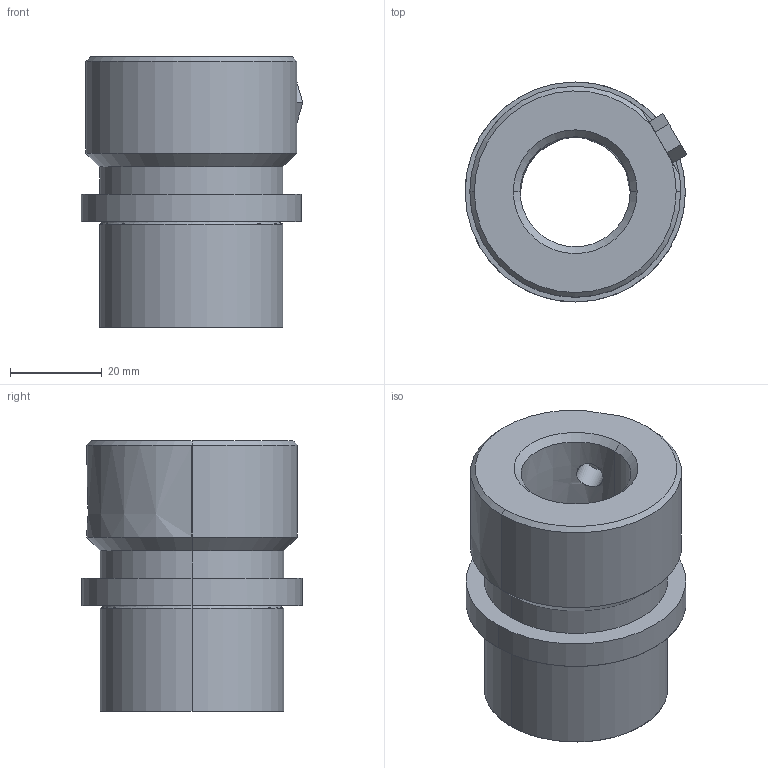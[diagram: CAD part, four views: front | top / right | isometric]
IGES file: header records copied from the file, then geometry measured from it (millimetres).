
Start section: START RECORD GO HERE.
Global section: file name: 741-24.igs; native system: DASSAULT SYSTEMES CATIA V5 R20 - www.3ds.com; preprocessor: CATIA Version 5 Release 20 ; author: Utente; organization: NB04-ASUS; date: 20210120.194423; units: millimetre
Bounding box: 48.34 x 48 x 59 mm (x, y, z)
Surface area: 15985 mm2 (no closed solid volume)
Topology: 0 solids, 0 shells, 42 faces, 182 edges, 182 vertices
Faces by surface type: revolution 27, plane 15
